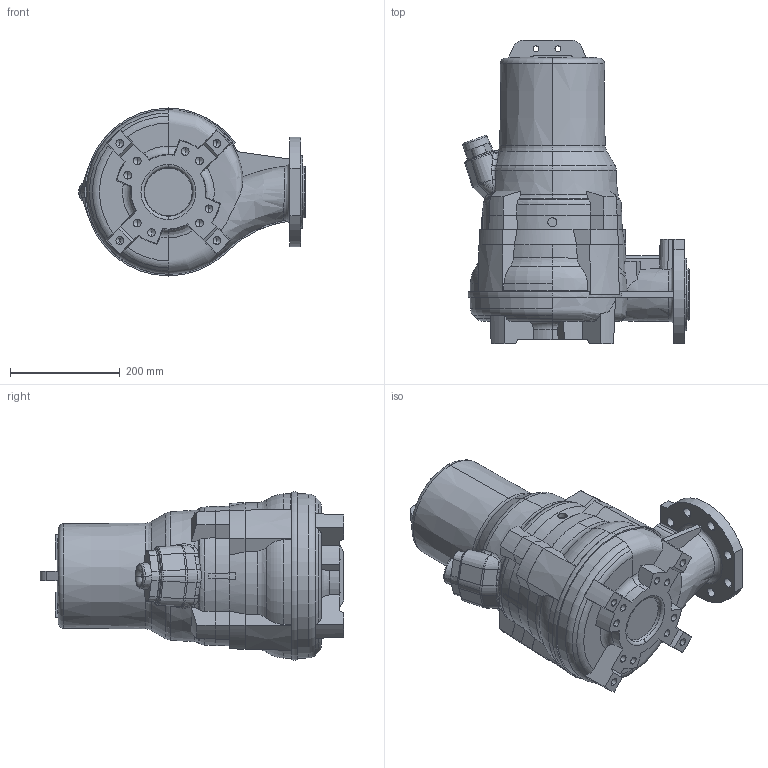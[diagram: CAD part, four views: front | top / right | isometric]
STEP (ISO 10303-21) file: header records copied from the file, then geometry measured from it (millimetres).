
FILE_DESCRIPTION (( 'STEP AP203' ), '1' );
FILE_NAME ('80FWC-V_5,5kW.STEP', '2025-03-21T10:23:26', ( '' ), ( '' ), 'SwSTEP 2.0', 'SolidWorks 2023', '' );
FILE_SCHEMA (( 'CONFIG_CONTROL_DESIGN' ));
Length unit declared in the file: millimetre
Products named in the file (1): 80FWC-V_5,5kW
Bounding box: 412.02 x 553 x 305.91 mm (x, y, z)
Volume: 25036477.8 mm3; surface area: 673210.5 mm2
Topology: 1 solids, 2 shells, 590 faces, 1519 edges, 958 vertices
Faces by surface type: plane 221, cone 119, bspline 96, cylinder 92, torus 56, sphere 6
Entity records: 25216 total; most frequent: CARTESIAN_POINT 11583, ORIENTED_EDGE 3014, DIRECTION 2612, EDGE_CURVE 1507, AXIS2_PLACEMENT_3D 1049, VERTEX_POINT 958, EDGE_LOOP 647, FACE_OUTER_BOUND 590
